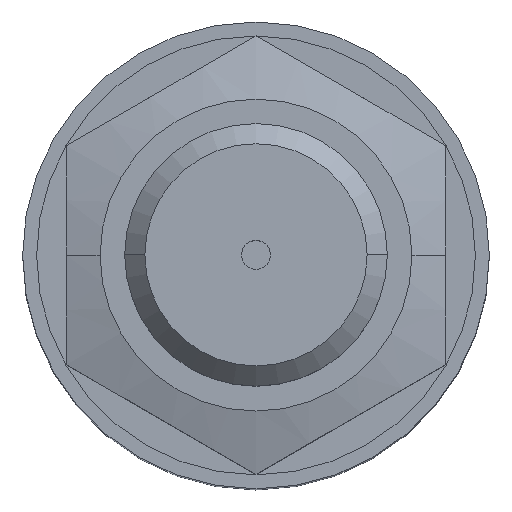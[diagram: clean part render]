
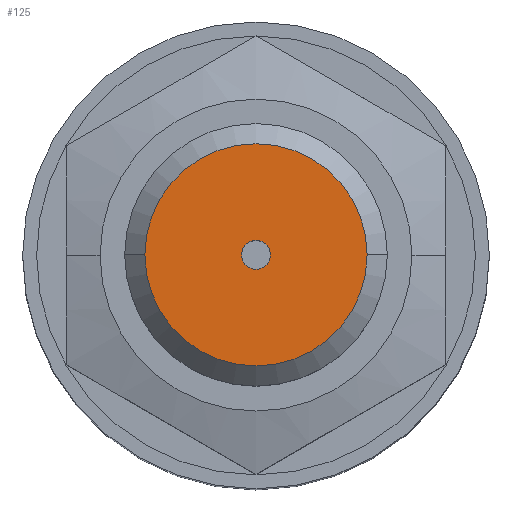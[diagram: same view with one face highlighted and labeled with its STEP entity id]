
A CAD part, top view. The second image highlights one B-rep face of the part: STEP entity #125.
In plain terms, the highlighted planar face has unit normal (0, 0, 1).
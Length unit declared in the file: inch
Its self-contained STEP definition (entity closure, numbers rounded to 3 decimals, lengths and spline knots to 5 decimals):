
#123 = ORIENTED_EDGE ( 'NONE', *, *, #332, .F. ) ;
#125 = ADVANCED_FACE ( 'NONE', ( #760, #759 ), #758, .F. ) ;
#126 = ORIENTED_EDGE ( 'NONE', *, *, #127, .T. ) ;
#127 = EDGE_CURVE ( 'NONE', #257, #171, #752, .T. ) ;
#128 = ORIENTED_EDGE ( 'NONE', *, *, #172, .T. ) ;
#129 = ORIENTED_EDGE ( 'NONE', *, *, #130, .F. ) ;
#130 = EDGE_CURVE ( 'NONE', #331, #278, #690, .T. ) ;
#136 = EDGE_LOOP ( 'NONE', ( #129, #123 ) ) ;
#137 = EDGE_LOOP ( 'NONE', ( #126, #128 ) ) ;
#171 = VERTEX_POINT ( 'NONE', #932 ) ;
#172 = EDGE_CURVE ( 'NONE', #171, #257, #931, .T. ) ;
#257 = VERTEX_POINT ( 'NONE', #952 ) ;
#278 = VERTEX_POINT ( 'NONE', #1256 ) ;
#331 = VERTEX_POINT ( 'NONE', #1104 ) ;
#332 = EDGE_CURVE ( 'NONE', #278, #331, #1100, .T. ) ;
#687 = DIRECTION ( 'NONE',  ( 1., 0., 0. ) ) ;
#688 = DIRECTION ( 'NONE',  ( 0., 0., 1. ) ) ;
#689 = AXIS2_PLACEMENT_3D ( 'NONE', #753, #688, #687 ) ;
#690 = CIRCLE ( 'NONE', #689, 0.031 ) ;
#748 = DIRECTION ( 'NONE',  ( 1., 0., 0. ) ) ;
#749 = DIRECTION ( 'NONE',  ( 0., 0., 1. ) ) ;
#750 = CARTESIAN_POINT ( 'NONE',  ( 0., 0., 0.35 ) ) ;
#751 = AXIS2_PLACEMENT_3D ( 'NONE', #750, #749, #748 ) ;
#752 = CIRCLE ( 'NONE', #751, 0.238 ) ;
#753 = CARTESIAN_POINT ( 'NONE',  ( 0., 0., 0.35 ) ) ;
#754 = DIRECTION ( 'NONE',  ( -1., 0., 0. ) ) ;
#755 = DIRECTION ( 'NONE',  ( 0., 0., -1. ) ) ;
#756 = CARTESIAN_POINT ( 'NONE',  ( 0., 0.238, 0.35 ) ) ;
#757 = AXIS2_PLACEMENT_3D ( 'NONE', #756, #755, #754 ) ;
#758 = PLANE ( 'NONE',  #757 ) ;
#759 = FACE_BOUND ( 'NONE', #136, .T. ) ;
#760 = FACE_OUTER_BOUND ( 'NONE', #137, .T. ) ;
#927 = DIRECTION ( 'NONE',  ( 1., 0., 0. ) ) ;
#928 = DIRECTION ( 'NONE',  ( 0., 0., 1. ) ) ;
#929 = CARTESIAN_POINT ( 'NONE',  ( 0., 0., 0.35 ) ) ;
#930 = AXIS2_PLACEMENT_3D ( 'NONE', #929, #928, #927 ) ;
#931 = CIRCLE ( 'NONE', #930, 0.238 ) ;
#932 = CARTESIAN_POINT ( 'NONE',  ( 0.238, 0., 0.35 ) ) ;
#952 = CARTESIAN_POINT ( 'NONE',  ( -0.238, 0., 0.35 ) ) ;
#1096 = DIRECTION ( 'NONE',  ( 1., 0., 0. ) ) ;
#1097 = DIRECTION ( 'NONE',  ( 0., 0., 1. ) ) ;
#1098 = CARTESIAN_POINT ( 'NONE',  ( 0., 0., 0.35 ) ) ;
#1099 = AXIS2_PLACEMENT_3D ( 'NONE', #1098, #1097, #1096 ) ;
#1100 = CIRCLE ( 'NONE', #1099, 0.031 ) ;
#1104 = CARTESIAN_POINT ( 'NONE',  ( 0.031, 0., 0.35 ) ) ;
#1256 = CARTESIAN_POINT ( 'NONE',  ( -0.031, 0., 0.35 ) ) ;
